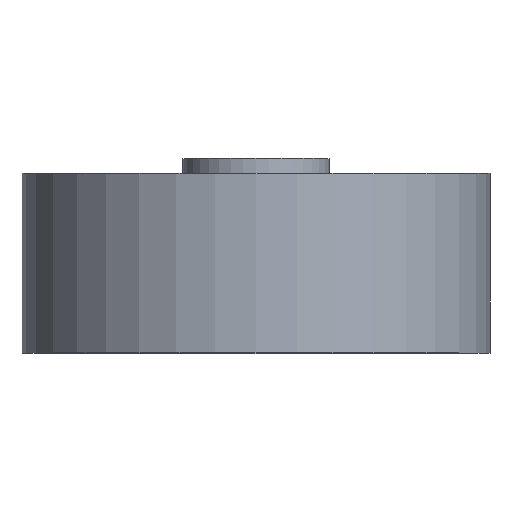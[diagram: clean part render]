
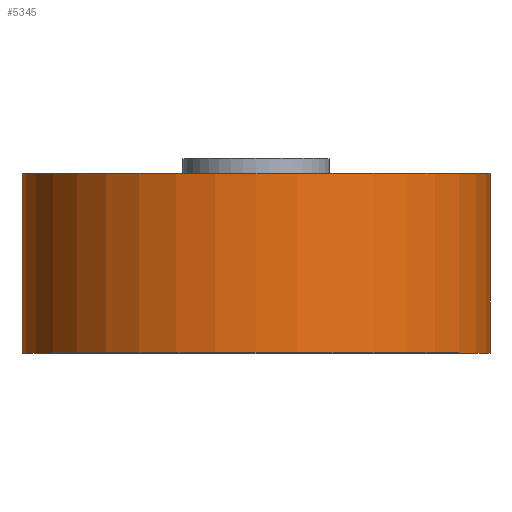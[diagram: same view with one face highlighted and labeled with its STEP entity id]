
A CAD part, top view. The second image highlights one B-rep face of the part: STEP entity #5345.
In plain terms, the highlighted cylindrical face has radius 62.5 mm (diameter 125 mm), a partial arc.
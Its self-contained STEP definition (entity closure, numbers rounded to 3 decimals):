
#51 = DIRECTION ( 'NONE',  ( -1., 0., 0. ) ) ;
#236 = DIRECTION ( 'NONE',  ( -1., 0., 0. ) ) ;
#743 = ORIENTED_EDGE ( 'NONE', *, *, #3874, .T. ) ;
#794 = VERTEX_POINT ( 'NONE', #5575 ) ;
#922 = DIRECTION ( 'NONE',  ( 0., 1., 0. ) ) ;
#1032 = VERTEX_POINT ( 'NONE', #3175 ) ;
#1102 = CYLINDRICAL_SURFACE ( 'NONE', #4549, 62.5 ) ;
#1222 = EDGE_LOOP ( 'NONE', ( #2476, #743, #2433, #3421 ) ) ;
#1408 = CARTESIAN_POINT ( 'NONE',  ( 30.997, -18.759, 0. ) ) ;
#1501 = CARTESIAN_POINT ( 'NONE',  ( 30.997, 33.241, 0. ) ) ;
#1602 = CARTESIAN_POINT ( 'NONE',  ( -31.503, 29.241, 0. ) ) ;
#1945 = DIRECTION ( 'NONE',  ( -1., 0., 0. ) ) ;
#2031 = LINE ( 'NONE', #3748, #5184 ) ;
#2331 = VERTEX_POINT ( 'NONE', #4943 ) ;
#2433 = ORIENTED_EDGE ( 'NONE', *, *, #3746, .F. ) ;
#2476 = ORIENTED_EDGE ( 'NONE', *, *, #3595, .T. ) ;
#2788 = DIRECTION ( 'NONE',  ( 0., 1., 0. ) ) ;
#2870 = CARTESIAN_POINT ( 'NONE',  ( 30.997, 29.241, 0. ) ) ;
#2972 = CIRCLE ( 'NONE', #5605, 62.5 ) ;
#3175 = CARTESIAN_POINT ( 'NONE',  ( -31.503, -18.759, 0. ) ) ;
#3243 = LINE ( 'NONE', #4099, #3468 ) ;
#3306 = DIRECTION ( 'NONE',  ( 0., 1., 0. ) ) ;
#3370 = EDGE_CURVE ( 'NONE', #1032, #4626, #3243, .T. ) ;
#3421 = ORIENTED_EDGE ( 'NONE', *, *, #3370, .F. ) ;
#3468 = VECTOR ( 'NONE', #4605, 1000. ) ;
#3582 = CIRCLE ( 'NONE', #5302, 62.5 ) ;
#3595 = EDGE_CURVE ( 'NONE', #1032, #2331, #2972, .T. ) ;
#3746 = EDGE_CURVE ( 'NONE', #4626, #794, #3582, .T. ) ;
#3748 = CARTESIAN_POINT ( 'NONE',  ( 93.497, 33.241, 0. ) ) ;
#3874 = EDGE_CURVE ( 'NONE', #2331, #794, #2031, .T. ) ;
#4099 = CARTESIAN_POINT ( 'NONE',  ( -31.503, 33.241, 0. ) ) ;
#4549 = AXIS2_PLACEMENT_3D ( 'NONE', #1501, #3306, #236 ) ;
#4605 = DIRECTION ( 'NONE',  ( 0., 1., 0. ) ) ;
#4626 = VERTEX_POINT ( 'NONE', #1602 ) ;
#4943 = CARTESIAN_POINT ( 'NONE',  ( 93.497, -18.759, 0. ) ) ;
#5000 = DIRECTION ( 'NONE',  ( 0., 1., 0. ) ) ;
#5184 = VECTOR ( 'NONE', #2788, 1000. ) ;
#5302 = AXIS2_PLACEMENT_3D ( 'NONE', #2870, #5000, #1945 ) ;
#5345 = ADVANCED_FACE ( 'NONE', ( #5465 ), #1102, .T. ) ;
#5465 = FACE_OUTER_BOUND ( 'NONE', #1222, .T. ) ;
#5575 = CARTESIAN_POINT ( 'NONE',  ( 93.497, 29.241, 0. ) ) ;
#5605 = AXIS2_PLACEMENT_3D ( 'NONE', #1408, #922, #51 ) ;
